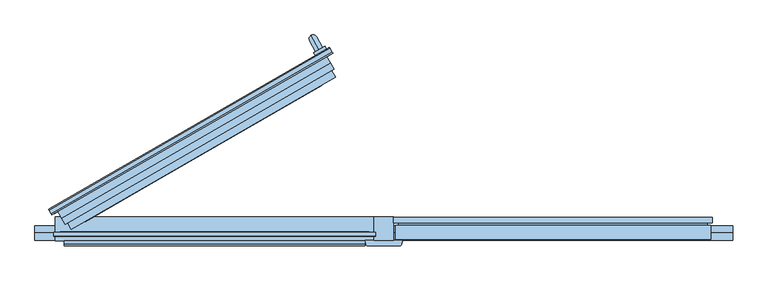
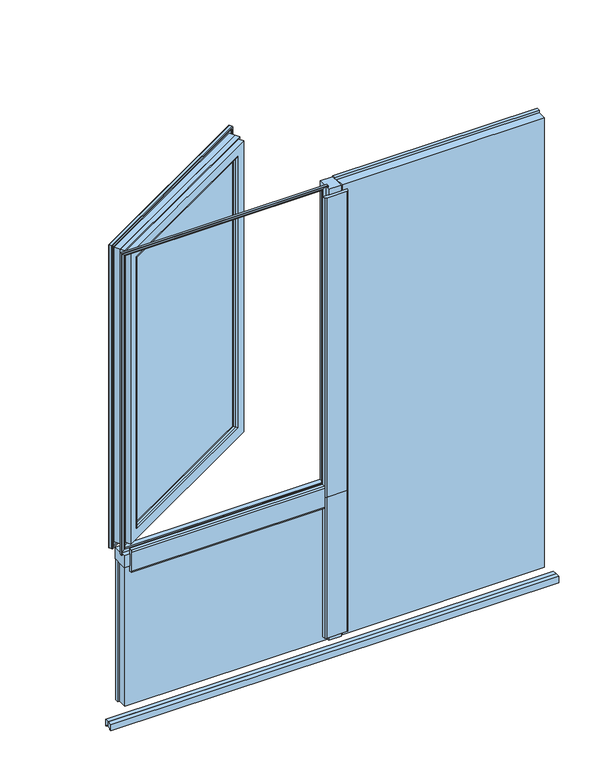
"""IFC4 building model written with IfcOpenShell, lengths in millimetres: window geometry, windowss9000gealanturntiltwindowsublightfixedwindow : windowss9000 2.00 x 2.25."""

from ifc_helpers import new_model, si_unit, point, frame, frame_2d, origin, place, context, project, spatial, polyline, circle_curve, ellipse_curve, trimmed, segment, composite_curve, outline, extrude, faceted_brep, source, transform, mapped, element, save
from ifc_brep_helpers import plane_surface, cylinder_surface, advanced_brep


def window_944cba15(model_context):
    return source(origin(), model_context, "Body", "SolidModel", [
        faceted_brep([(-925.0185609, -81.9435696, 1634.9814391), (-925.0185609, -81.9435696, 3015.0185609), (-928.9615609, -82.1650228, 3018.9615609), (-928.9615609, -82.1650228, 1631.0384391), (-925.0185609, -80.4586856, 1634.9814391), (-925.0185609, -80.4586856, 3015.0185609), (-927.3731482, -79.9993258, 1632.6268518), (-927.3731482, -79.9993258, 3017.3731482), (-946.1, -81.7, 1613.9), (-946.1, -81.7, 3036.1), (-946.1, -90.9718819, 1613.9), (-946.1, -90.9718819, 3036.1), (-946.4143137, -92.4497497, 1613.5856863), (-946.4143137, -92.4497497, 3036.4143137), (-945.4535534, -92.3254352, 1614.5464466), (-945.4535534, -92.3254352, 3035.4535534), (-943.8934304, -89.4676231, 1616.1065696), (-943.8934304, -89.4676231, 3033.8934304), (-943.4676669, -84.0419926, 1616.5323331), (-943.4676669, -84.0419926, 3033.4676669), (-44.9814391, -81.9435696, 3015.0185609), (-41.0384391, -82.1650228, 3018.9615609), (-44.9814391, -80.4586856, 3015.0185609), (-42.6268518, -79.9993258, 3017.3731482), (-23.9, -81.7, 3036.1), (-23.9, -90.9718819, 3036.1), (-23.5856863, -92.4497497, 3036.4143137), (-24.5464466, -92.3254352, 3035.4535534), (-26.1065696, -89.4676231, 3033.8934304), (-26.5323331, -84.0419926, 3033.4676669), (-44.9814391, -81.9435696, 1634.9814391), (-41.0384391, -82.1650228, 1631.0384391), (-44.9814391, -80.4586856, 1634.9814391), (-42.6268518, -79.9993258, 1632.6268518), (-23.9, -81.7, 1613.9), (-23.9, -90.9718819, 1613.9), (-23.5856863, -92.4497497, 1613.5856863), (-24.5464466, -92.3254352, 1614.5464466), (-26.1065696, -89.4676231, 1616.1065696), (-26.5323331, -84.0419926, 1616.5323331)], [[[0, 1, 2, 3]], [[4, 5, 1, 0]], [[6, 7, 5, 4]], [[8, 9, 7, 6]], [[10, 11, 9, 8]], [[12, 13, 11, 10]], [[14, 15, 13, 12]], [[16, 17, 15, 14]], [[18, 19, 17, 16]], [[3, 2, 19, 18]], [[1, 20, 21, 2]], [[5, 22, 20, 1]], [[7, 23, 22, 5]], [[9, 24, 23, 7]], [[11, 25, 24, 9]], [[13, 26, 25, 11]], [[15, 27, 26, 13]], [[17, 28, 27, 15]], [[19, 29, 28, 17]], [[2, 21, 29, 19]], [[20, 30, 31, 21]], [[22, 32, 30, 20]], [[23, 33, 32, 22]], [[24, 34, 33, 23]], [[25, 35, 34, 24]], [[26, 36, 35, 25]], [[27, 37, 36, 26]], [[28, 38, 37, 27]], [[29, 39, 38, 28]], [[21, 31, 39, 29]], [[30, 0, 3, 31]], [[32, 4, 0, 30]], [[33, 6, 4, 32]], [[34, 8, 6, 33]], [[35, 10, 8, 34]], [[36, 12, 10, 35]], [[37, 14, 12, 36]], [[38, 16, 14, 37]], [[39, 18, 16, 38]], [[31, 3, 18, 39]]]),
        extrude(outline(polyline([(913.9987828, 926.0012172), (3016.0012172, 926.0012172), (3016.0012172, 43.9987828), (913.9987828, 43.9987828), (913.9987828, 926.0012172)]), holes=[polyline([(3006.0012172, 916.0012172), (923.9987828, 916.0012172), (923.9987828, 53.9987828), (3006.0012172, 53.9987828), (3006.0012172, 916.0012172)])]), frame((0.0, -62.0, 0.0), z_axis=(0.0, 1.0, 0.0), x_axis=(0.0, 0.0, 1.0)), (0.0, 0.0, 1.0), 2.5),
        advanced_brep(
        [(942.0, -39.0, 3032.0), (942.0, -54.5, 3032.0), (942.0, -54.5, 898.0), (942.0, -39.0, 898.0), (927.8034793, -59.5, 3017.8034793), (927.8034793, -59.5, 912.1965207), (929.1432253, -54.5, 910.8567747), (929.1432253, -54.5, 3019.1432253), (916.0012172, -57.9825503, 3006.0012172), (916.0012172, -57.9825503, 923.9987828), (916.0012172, -59.5, 923.9987828), (916.0012172, -59.5, 3006.0012172), (919.8959832, -43.4470857, 3009.8959832), (919.8959832, -43.4470857, 920.1040168), (925.6915381, -39.0, 3015.6915381), (925.6915381, -39.0, 914.3084619), (28.0, -54.5, 898.0), (28.0, -39.0, 898.0), (42.1965207, -59.5, 912.1965207), (40.8567747, -54.5, 910.8567747), (53.9987828, -57.9825503, 923.9987828), (53.9987828, -59.5, 923.9987828), (50.1040168, -43.4470857, 920.1040168), (44.3084619, -39.0, 914.3084619), (28.0, -54.5, 3032.0), (28.0, -39.0, 3032.0), (42.1965207, -59.5, 3017.8034793), (40.8567747, -54.5, 3019.1432253), (53.9987828, -57.9825503, 3006.0012172), (53.9987828, -59.5, 3006.0012172), (50.1040168, -43.4470857, 3009.8959832), (44.3084619, -39.0, 3015.6915381)],
        [
            (0, 1),
            (1, 2),
            (2, 3),
            (3, 0),
            (4, 5),
            (5, 6),
            (6, 7),
            (7, 4),
            (8, 9),
            (9, 10),
            (10, 11),
            (11, 8),
            (12, 13),
            (13, 9),
            (8, 12),
            (14, 15),
            (15, 13, ellipse_curve(frame((925.6915381, -45.0, 914.3084619), z_axis=(0.7071067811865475, 0.0, 0.7071067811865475), x_axis=(-0.7071067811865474, 0.0, 0.7071067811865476)), 8.4852814, 6.0)),
            (12, 14, ellipse_curve(frame((925.6915381, -45.0, 3015.6915381), z_axis=(0.7071067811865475, 0.0, -0.7071067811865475), x_axis=(0.7071067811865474, 0.0, 0.7071067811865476)), 8.4852814, 6.0)),
            (2, 16),
            (16, 17),
            (17, 3),
            (5, 18),
            (18, 19),
            (19, 6),
            (9, 20),
            (20, 21),
            (21, 10),
            (13, 22),
            (22, 20),
            (15, 23),
            (23, 22, ellipse_curve(frame((44.3084619, -45.0, 914.3084619), z_axis=(0.7071067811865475, 0.0, -0.7071067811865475), x_axis=(0.7071067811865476, 0.0, 0.7071067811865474)), 8.4852814, 6.0)),
            (16, 24),
            (24, 25),
            (25, 17),
            (18, 26),
            (26, 27),
            (27, 19),
            (20, 28),
            (28, 29),
            (29, 21),
            (22, 30),
            (30, 28),
            (23, 31),
            (31, 30, ellipse_curve(frame((44.3084619, -45.0, 3015.6915381), z_axis=(-0.7071067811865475, 0.0, -0.7071067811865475), x_axis=(0.7071067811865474, 0.0, -0.7071067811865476)), 8.4852814, 6.0)),
            (25, 0),
            (14, 31),
            (24, 1),
            (27, 7),
            (26, 4),
            (29, 11),
            (28, 8),
            (30, 12),
        ],
        [
            plane_surface(frame((942.0, -40.0, 3032.0), z_axis=(1.0, 0.0, 0.0), x_axis=(0.0, 0.0, -1.0))),
            plane_surface(frame((929.1432253, -54.5, 3019.1432253), z_axis=(0.9659258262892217, -0.2588190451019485, 0.0), x_axis=(0.0, 0.0, -1.0))),
            plane_surface(frame((916.0012172, -59.5, 3006.0012172), z_axis=(-1.0, 0.0, 0.0), x_axis=(0.0, 0.0, -1.0))),
            plane_surface(frame((916.0012172, -57.9825503, 3006.0012172), z_axis=(-0.96592582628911, 0.2588190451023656, 0.0), x_axis=(0.0, 0.0, -1.0))),
            cylinder_surface(frame((925.6915381, -45.0, 3032.0), z_axis=(0.0, 0.0, 1.0), x_axis=(-0.9659258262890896, 0.25881904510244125, 0.0)), 6.0),
            plane_surface(frame((942.0, -40.0, 898.0), z_axis=(0.0, 0.0, -1.0), x_axis=(-1.0, 0.0, 0.0))),
            plane_surface(frame((929.1432253, -54.5, 910.8567747), z_axis=(0.0, -0.2588190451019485, -0.9659258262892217), x_axis=(-1.0, 0.0, 0.0))),
            plane_surface(frame((916.0012172, -59.5, 923.9987828), z_axis=(0.0, 0.0, 1.0), x_axis=(-1.0, 0.0, 0.0))),
            plane_surface(frame((916.0012172, -57.9825503, 923.9987828), z_axis=(0.0, 0.2588190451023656, 0.96592582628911), x_axis=(-1.0, 0.0, 0.0))),
            cylinder_surface(frame((942.0, -45.0, 914.3084619), z_axis=(1.0, 0.0, 0.0), x_axis=(0.0, 0.25881904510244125, 0.9659258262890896)), 6.0),
            plane_surface(frame((28.0, -40.0, 898.0), z_axis=(-1.0, 0.0, 0.0), x_axis=(0.0, 0.0, 1.0))),
            plane_surface(frame((40.8567747, -54.5, 910.8567747), z_axis=(-0.9659258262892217, -0.2588190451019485, 0.0), x_axis=(0.0, 0.0, 1.0))),
            plane_surface(frame((53.9987828, -59.5, 923.9987828), z_axis=(1.0, 0.0, 0.0), x_axis=(0.0, 0.0, 1.0))),
            plane_surface(frame((53.9987828, -57.9825503, 923.9987828), z_axis=(0.96592582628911, 0.2588190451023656, 0.0), x_axis=(0.0, 0.0, 1.0))),
            cylinder_surface(frame((44.3084619, -45.0, 898.0), z_axis=(0.0, 0.0, -1.0), x_axis=(0.9659258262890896, 0.25881904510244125, 0.0)), 6.0),
            plane_surface(frame((44.3084619, -39.0, 3015.6915381), z_axis=(0.0, 1.0, 0.0), x_axis=(1.0, 0.0, 0.0))),
            plane_surface(frame((28.0, -40.0, 3032.0), z_axis=(0.0, 0.0, 1.0), x_axis=(1.0, 0.0, 0.0))),
            plane_surface(frame((28.0, -54.5, 3032.0), z_axis=(0.0, -1.0, 0.0), x_axis=(1.0, 0.0, 0.0))),
            plane_surface(frame((40.8567747, -54.5, 3019.1432253), z_axis=(0.0, -0.2588190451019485, 0.9659258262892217), x_axis=(1.0, 0.0, 0.0))),
            plane_surface(frame((42.1965207, -59.5, 3017.8034793), z_axis=(0.0, -1.0, 0.0), x_axis=(1.0, 0.0, 0.0))),
            plane_surface(frame((53.9987828, -59.5, 3006.0012172), z_axis=(0.0, 0.0, -1.0), x_axis=(1.0, 0.0, 0.0))),
            plane_surface(frame((53.9987828, -57.9825503, 3006.0012172), z_axis=(0.0, 0.2588190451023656, -0.96592582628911), x_axis=(1.0, 0.0, 0.0))),
            cylinder_surface(frame((28.0, -45.0, 3015.6915381), z_axis=(-1.0, 0.0, 0.0), x_axis=(0.0, 0.25881904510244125, -0.9659258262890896)), 6.0),
        ],
        [
            (0, [[1, 2, 3, 4]]),
            (1, [[5, 6, 7, 8]]),
            (2, [[9, 10, 11, 12]]),
            (3, [[13, 14, -9, 15]]),
            (4, [[16, 17, -13, 18]]),
            (5, [[19, 20, 21, -3]]),
            (6, [[22, 23, 24, -6]]),
            (7, [[25, 26, 27, -10]]),
            (8, [[28, 29, -25, -14]]),
            (9, [[30, 31, -28, -17]]),
            (10, [[32, 33, 34, -20]]),
            (11, [[35, 36, 37, -23]]),
            (12, [[38, 39, 40, -26]]),
            (13, [[41, 42, -38, -29]]),
            (14, [[43, 44, -41, -31]]),
            (15, [[-4, -21, -34, 45], [-16, 46, -43, -30]]),
            (16, [[47, -1, -45, -33]]),
            (17, [[-2, -47, -32, -19], [-7, -24, -37, 48]]),
            (18, [[49, -8, -48, -36]]),
            (19, [[-5, -49, -35, -22], [-11, -27, -40, 50]]),
            (20, [[51, -12, -50, -39]]),
            (21, [[52, -15, -51, -42]]),
            (22, [[-46, -18, -52, -44]]),
        ],
    ),
        extrude(outline(polyline([(913.9987828, -43.9987828), (1546.0012172, -43.9987828), (1546.0012172, -926.0012172), (913.9987828, -926.0012172), (913.9987828, -43.9987828)]), holes=[polyline([(1536.0012172, -53.9987828), (923.9987828, -53.9987828), (923.9987828, -916.0012172), (1536.0012172, -916.0012172), (1536.0012172, -53.9987828)])]), frame((0.0, -62.0, 0.0), z_axis=(0.0, 1.0, 0.0), x_axis=(0.0, 0.0, 1.0)), (0.0, 0.0, 1.0), 2.5),
        advanced_brep(
        [(-28.0, -39.0, 1562.0), (-28.0, -54.5, 1562.0), (-28.0, -54.5, 898.0), (-28.0, -39.0, 898.0), (-42.1965207, -59.5, 1547.8034793), (-42.1965207, -59.5, 912.1965207), (-40.8567747, -54.5, 910.8567747), (-40.8567747, -54.5, 1549.1432253), (-53.9987828, -57.9825503, 1536.0012172), (-53.9987828, -57.9825503, 923.9987828), (-53.9987828, -59.5, 923.9987828), (-53.9987828, -59.5, 1536.0012172), (-50.1040168, -43.4470857, 1539.8959832), (-50.1040168, -43.4470857, 920.1040168), (-44.3084619, -39.0, 1545.6915381), (-44.3084619, -39.0, 914.3084619), (-942.0, -54.5, 898.0), (-942.0, -39.0, 898.0), (-927.8034793, -59.5, 912.1965207), (-929.1432253, -54.5, 910.8567747), (-916.0012172, -57.9825503, 923.9987828), (-916.0012172, -59.5, 923.9987828), (-919.8959832, -43.4470857, 920.1040168), (-925.6915381, -39.0, 914.3084619), (-942.0, -54.5, 1562.0), (-942.0, -39.0, 1562.0), (-927.8034793, -59.5, 1547.8034793), (-929.1432253, -54.5, 1549.1432253), (-916.0012172, -57.9825503, 1536.0012172), (-916.0012172, -59.5, 1536.0012172), (-919.8959832, -43.4470857, 1539.8959832), (-925.6915381, -39.0, 1545.6915381)],
        [
            (0, 1),
            (1, 2),
            (2, 3),
            (3, 0),
            (4, 5),
            (5, 6),
            (6, 7),
            (7, 4),
            (8, 9),
            (9, 10),
            (10, 11),
            (11, 8),
            (12, 13),
            (13, 9),
            (8, 12),
            (14, 15),
            (15, 13, ellipse_curve(frame((-44.3084619, -45.0, 914.3084619), z_axis=(0.7071067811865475, 0.0, 0.7071067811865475), x_axis=(-0.7071067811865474, 0.0, 0.7071067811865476)), 8.4852814, 6.0)),
            (12, 14, ellipse_curve(frame((-44.3084619, -45.0, 1545.6915381), z_axis=(0.7071067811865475, 0.0, -0.7071067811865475), x_axis=(0.7071067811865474, 0.0, 0.7071067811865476)), 8.4852814, 6.0)),
            (2, 16),
            (16, 17),
            (17, 3),
            (5, 18),
            (18, 19),
            (19, 6),
            (9, 20),
            (20, 21),
            (21, 10),
            (13, 22),
            (22, 20),
            (15, 23),
            (23, 22, ellipse_curve(frame((-925.6915381, -45.0, 914.3084619), z_axis=(0.7071067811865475, 0.0, -0.7071067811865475), x_axis=(0.7071067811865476, 0.0, 0.7071067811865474)), 8.4852814, 6.0)),
            (16, 24),
            (24, 25),
            (25, 17),
            (18, 26),
            (26, 27),
            (27, 19),
            (20, 28),
            (28, 29),
            (29, 21),
            (22, 30),
            (30, 28),
            (23, 31),
            (31, 30, ellipse_curve(frame((-925.6915381, -45.0, 1545.6915381), z_axis=(-0.7071067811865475, 0.0, -0.7071067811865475), x_axis=(0.7071067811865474, 0.0, -0.7071067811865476)), 8.4852814, 6.0)),
            (25, 0),
            (14, 31),
            (24, 1),
            (27, 7),
            (26, 4),
            (29, 11),
            (28, 8),
            (30, 12),
        ],
        [
            plane_surface(frame((-28.0, -40.0, 1562.0), z_axis=(1.0, 0.0, 0.0), x_axis=(0.0, 0.0, -1.0))),
            plane_surface(frame((-40.8567747, -54.5, 1549.1432253), z_axis=(0.9659258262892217, -0.2588190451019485, 0.0), x_axis=(0.0, 0.0, -1.0))),
            plane_surface(frame((-53.9987828, -59.5, 1536.0012172), z_axis=(-1.0, 0.0, 0.0), x_axis=(0.0, 0.0, -1.0))),
            plane_surface(frame((-53.9987828, -57.9825503, 1536.0012172), z_axis=(-0.96592582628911, 0.2588190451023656, 0.0), x_axis=(0.0, 0.0, -1.0))),
            cylinder_surface(frame((-44.3084619, -45.0, 1562.0), z_axis=(0.0, 0.0, 1.0), x_axis=(-0.9659258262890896, 0.25881904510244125, 0.0)), 6.0),
            plane_surface(frame((-28.0, -40.0, 898.0), z_axis=(0.0, 0.0, -1.0), x_axis=(-1.0, 0.0, 0.0))),
            plane_surface(frame((-40.8567747, -54.5, 910.8567747), z_axis=(0.0, -0.2588190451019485, -0.9659258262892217), x_axis=(-1.0, 0.0, 0.0))),
            plane_surface(frame((-53.9987828, -59.5, 923.9987828), z_axis=(0.0, 0.0, 1.0), x_axis=(-1.0, 0.0, 0.0))),
            plane_surface(frame((-53.9987828, -57.9825503, 923.9987828), z_axis=(0.0, 0.2588190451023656, 0.96592582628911), x_axis=(-1.0, 0.0, 0.0))),
            cylinder_surface(frame((-28.0, -45.0, 914.3084619), z_axis=(1.0, 0.0, 0.0), x_axis=(0.0, 0.25881904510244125, 0.9659258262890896)), 6.0),
            plane_surface(frame((-942.0, -40.0, 898.0), z_axis=(-1.0, 0.0, 0.0), x_axis=(0.0, 0.0, 1.0))),
            plane_surface(frame((-929.1432253, -54.5, 910.8567747), z_axis=(-0.9659258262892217, -0.2588190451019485, 0.0), x_axis=(0.0, 0.0, 1.0))),
            plane_surface(frame((-916.0012172, -59.5, 923.9987828), z_axis=(1.0, 0.0, 0.0), x_axis=(0.0, 0.0, 1.0))),
            plane_surface(frame((-916.0012172, -57.9825503, 923.9987828), z_axis=(0.96592582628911, 0.2588190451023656, 0.0), x_axis=(0.0, 0.0, 1.0))),
            cylinder_surface(frame((-925.6915381, -45.0, 898.0), z_axis=(0.0, 0.0, -1.0), x_axis=(0.9659258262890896, 0.25881904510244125, 0.0)), 6.0),
            plane_surface(frame((-925.6915381, -39.0, 1545.6915381), z_axis=(0.0, 1.0, 0.0), x_axis=(1.0, 0.0, 0.0))),
            plane_surface(frame((-942.0, -40.0, 1562.0), z_axis=(0.0, 0.0, 1.0), x_axis=(1.0, 0.0, 0.0))),
            plane_surface(frame((-942.0, -54.5, 1562.0), z_axis=(0.0, -1.0, 0.0), x_axis=(1.0, 0.0, 0.0))),
            plane_surface(frame((-929.1432253, -54.5, 1549.1432253), z_axis=(0.0, -0.2588190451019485, 0.9659258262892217), x_axis=(1.0, 0.0, 0.0))),
            plane_surface(frame((-927.8034793, -59.5, 1547.8034793), z_axis=(0.0, -1.0, 0.0), x_axis=(1.0, 0.0, 0.0))),
            plane_surface(frame((-916.0012172, -59.5, 1536.0012172), z_axis=(0.0, 0.0, -1.0), x_axis=(1.0, 0.0, 0.0))),
            plane_surface(frame((-916.0012172, -57.9825503, 1536.0012172), z_axis=(0.0, 0.2588190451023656, -0.96592582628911), x_axis=(1.0, 0.0, 0.0))),
            cylinder_surface(frame((-942.0, -45.0, 1545.6915381), z_axis=(-1.0, 0.0, 0.0), x_axis=(0.0, 0.25881904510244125, -0.9659258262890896)), 6.0),
        ],
        [
            (0, [[1, 2, 3, 4]]),
            (1, [[5, 6, 7, 8]]),
            (2, [[9, 10, 11, 12]]),
            (3, [[13, 14, -9, 15]]),
            (4, [[16, 17, -13, 18]]),
            (5, [[19, 20, 21, -3]]),
            (6, [[22, 23, 24, -6]]),
            (7, [[25, 26, 27, -10]]),
            (8, [[28, 29, -25, -14]]),
            (9, [[30, 31, -28, -17]]),
            (10, [[32, 33, 34, -20]]),
            (11, [[35, 36, 37, -23]]),
            (12, [[38, 39, 40, -26]]),
            (13, [[41, 42, -38, -29]]),
            (14, [[43, 44, -41, -31]]),
            (15, [[-4, -21, -34, 45], [-16, 46, -43, -30]]),
            (16, [[47, -1, -45, -33]]),
            (17, [[-2, -47, -32, -19], [-7, -24, -37, 48]]),
            (18, [[49, -8, -48, -36]]),
            (19, [[-5, -49, -35, -22], [-11, -27, -40, 50]]),
            (20, [[51, -12, -50, -39]]),
            (21, [[52, -15, -51, -42]]),
            (22, [[-46, -18, -52, -44]]),
        ],
    ),
        extrude(outline(polyline([(33.0, -102.0), (33.0, -62.0), (937.0, -62.0), (937.0, -102.0), (33.0, -102.0)])), frame((0.0, 0.0, 903.0), z_axis=(0.0, 0.0, 1.0), x_axis=(1.0, 0.0, 0.0)), (0.0, 0.0, 1.0), 2124.0),
        extrude(outline(composite_curve([segment(polyline([(45.6552097, -120.0), (-45.6552097, -120.0)]), True, "CONTINUOUS"), segment(trimmed(circle_curve(frame_2d((-45.6552097, -114.0)), 6.0), [point((-45.6552097, -120.0))], [point((-51.4507647, -115.5529143))], False, "CARTESIAN"), True, "CONTINUOUS"), segment(polyline([(-51.4507647, -115.5529143), (-54.3100167, -105.0), (54.2784096, -105.0), (51.4507647, -115.5529143)]), True, "CONTINUOUS"), segment(trimmed(circle_curve(frame_2d((45.6552097, -114.0)), 6.0), [point((51.4507647, -115.5529143))], [point((45.6552097, -120.0))], False, "CARTESIAN"), True, "CONTINUOUS")], self_intersect=False)), frame((0.0, 0.0, 1590.0), z_axis=(0.0, 0.0, 1.0), x_axis=(1.0, 0.0, 0.0)), (0.0, 0.0, 1.0), 1411.9),
        extrude(outline(polyline([(-28.0, -37.5), (28.0, -37.5), (28.0, -105.0), (-28.0, -105.0), (-28.0, -37.5)])), frame((0.0, 0.0, 1590.0), z_axis=(0.0, 0.0, 1.0), x_axis=(1.0, 0.0, 0.0)), (0.0, 0.0, 1.0), 1437.9),
        extrude(outline(composite_curve([segment(polyline([(45.6552097, -120.0), (-45.6552097, -120.0)]), True, "CONTINUOUS"), segment(trimmed(circle_curve(frame_2d((-45.6552097, -114.0)), 6.0), [point((-45.6552097, -120.0))], [point((-51.4507647, -115.5529143))], False, "CARTESIAN"), True, "CONTINUOUS"), segment(polyline([(-51.4507647, -115.5529143), (-54.3100167, -105.0), (54.2784096, -105.0), (51.4507647, -115.5529143)]), True, "CONTINUOUS"), segment(trimmed(circle_curve(frame_2d((45.6552097, -114.0)), 6.0), [point((51.4507647, -115.5529143))], [point((45.6552097, -120.0))], False, "CARTESIAN"), True, "CONTINUOUS")], self_intersect=False)), frame((0.0, 0.0, 924.0), z_axis=(0.0, 0.0, 1.0), x_axis=(1.0, 0.0, 0.0)), (0.0, 0.0, 1.0), 666.0),
        extrude(outline(polyline([(-28.0, -37.5), (28.0, -37.5), (28.0, -105.0), (-28.0, -105.0), (-28.0, -37.5)])), frame((0.0, 0.0, 898.0), z_axis=(0.0, 0.0, 1.0), x_axis=(1.0, 0.0, 0.0)), (0.0, 0.0, 1.0), 692.0),
        extrude(outline(composite_curve([segment(polyline([(-115.5529143, 1641.4507647), (-105.0, 1644.2784096), (-105.0, 1535.6899833), (-115.5529143, 1538.5492353)]), True, "CONTINUOUS"), segment(trimmed(circle_curve(frame_2d((-114.0, 1544.3447903)), 6.0), [point((-115.5529143, 1538.5492353))], [point((-120.0, 1544.3447903))], False, "CARTESIAN"), True, "CONTINUOUS"), segment(polyline([(-120.0, 1544.3447903), (-120.0, 1635.6552097)]), True, "CONTINUOUS"), segment(trimmed(circle_curve(frame_2d((-114.0, 1635.6552097)), 6.0), [point((-120.0, 1635.6552097))], [point((-115.5529143, 1641.4507647))], False, "CARTESIAN"), True, "CONTINUOUS")], self_intersect=False)), frame((-916.0, 0.0, 0.0), z_axis=(1.0, 0.0, 0.0), x_axis=(0.0, 1.0, 0.0)), (0.0, 0.0, 1.0), 861.6899833),
        faceted_brep([(-942.0, -37.5, 1562.0), (-942.0, -105.0, 1562.0), (-942.0, -105.0, 1618.0), (-942.0, -37.5, 1618.0), (-28.0, -37.5, 1562.0), (-28.0, -105.0, 1562.0), (-54.3100167, -105.0, 1562.0), (-28.0, -105.0, 1618.0), (-54.3100167, -105.0, 1618.0), (-28.0, -37.5, 1618.0)], [[[0, 1, 2, 3]], [[0, 4, 5, 6, 1]], [[1, 6, 5, 7, 8, 2]], [[2, 8, 7, 9, 3]], [[3, 9, 4, 0]], [[4, 9, 7, 5]]]),
        advanced_brep(
        [(-185.001819, 443.431724, 2295.5), (-185.001819, 443.431724, 2272.5), (-196.751819, 463.783321, 2272.5), (-208.251819, 483.7019053, 2295.5), (-208.251819, 483.7019053, 2167.0), (-196.751819, 463.783321, 2167.0)],
        [
            (0, 1, circle_curve(frame((-185.001819, 443.431724, 2284.0), z_axis=(0.49999999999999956, -0.8660254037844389, 0.0), x_axis=(0.0, 0.0, -1.0)), 11.5)),
            (1, 0, circle_curve(frame((-185.001819, 443.431724, 2284.0), z_axis=(0.49999999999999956, -0.8660254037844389, 0.0), x_axis=(0.0, 0.0, -1.0)), 11.5)),
            (1, 2),
            (2, 3, ellipse_curve(frame((-202.501819, 473.7426131, 2284.0), z_axis=(0.3535533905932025, -0.6123724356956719, 0.7071067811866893), x_axis=(0.3535533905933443, -0.6123724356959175, -0.7071067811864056)), 16.263456, 11.5)),
            (3, 0),
            (3, 2, ellipse_curve(frame((-202.501819, 473.7426131, 2284.0), z_axis=(0.3535533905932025, -0.6123724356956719, 0.7071067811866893), x_axis=(0.3535533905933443, -0.6123724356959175, -0.7071067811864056)), 16.263456, 11.5)),
            (4, 5, circle_curve(frame((-202.501819, 473.7426131, 2167.0), z_axis=(0.0, 0.0, -1.0), x_axis=(0.49999999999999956, -0.8660254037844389, 0.0)), 11.5)),
            (5, 4, circle_curve(frame((-202.501819, 473.7426131, 2167.0), z_axis=(0.0, 0.0, -1.0), x_axis=(0.49999999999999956, -0.8660254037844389, 0.0)), 11.5)),
            (2, 5),
            (4, 3),
        ],
        [
            plane_surface(frame((-185.001819, 443.431724, 2284.0), z_axis=(0.49999999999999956, -0.8660254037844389, 0.0), x_axis=(0.8660254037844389, 0.49999999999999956, 0.0))),
            cylinder_surface(frame((-185.001819, 443.431724, 2284.0), z_axis=(0.49999999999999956, -0.8660254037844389, 0.0), x_axis=(0.0, 0.0, -1.0)), 11.5),
            plane_surface(frame((-202.501819, 473.7426131, 2167.0), z_axis=(0.0, 0.0, -1.0), x_axis=(0.8660254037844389, 0.49999999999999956, 0.0))),
            cylinder_surface(frame((-202.501819, 473.7426131, 2284.0), z_axis=(0.0, 0.0, 1.0), x_axis=(0.49999999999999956, -0.8660254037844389, 0.0)), 11.5),
        ],
        [
            (0, [[1, 2]]),
            (1, [[3, 4, 5, -2]]),
            (1, [[-5, 6, -3, -1]]),
            (2, [[7, 8]]),
            (3, [[9, -7, 10, -4]]),
            (3, [[-10, -8, -9, -6]]),
        ],
    ),
        extrude(outline(polyline([(-163.9803491, 444.02147), (-196.023289, 425.52147), (-201.023289, 434.181724), (-168.9803491, 452.681724), (-163.9803491, 444.02147)])), frame((0.0, 0.0, 2225.0), z_axis=(0.0, 0.0, 1.0), x_axis=(1.0, 0.0, 0.0)), (0.0, 0.0, 1.0), 118.0),
        extrude(outline(polyline([(-875.6461709, -41.3371686), (-895.6461709, -6.6961524), (-195.8976447, 397.3038476), (-175.8976447, 362.6628314), (-875.6461709, -41.3371686)])), frame((0.0, 0.0, 1671.0000002), z_axis=(0.0, 0.0, 1.0), x_axis=(1.0, 0.0, 0.0)), (0.0, 0.0, 1.0), 1308.0),
        extrude(outline(polyline([(1273.2, 7.2000001), (1273.2, -773.2), (-7.2, -773.2), (-7.2, 7.2000001), (1273.2, 7.2000001)]), holes=[polyline([(1266.0, -766.0), (1266.0, 0.0), (0.0, 0.0), (0.0, -766.0), (1266.0, -766.0)])]), frame((-855.9596374, -33.4352448, 2958.0000002), z_axis=(-0.4999999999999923, 0.8660254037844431, 0.0), x_axis=(0.0, 0.0, -1.0)), (0.0, 0.0, 1.0), 3.0),
        extrude(outline(polyline([(777.5024344, 11.5), (777.5024344, -1277.5024344), (-11.5, -1277.5024344), (-11.5, 11.5), (777.5024344, 11.5)]), holes=[polyline([(766.0024344, -1266.0024344), (766.0024344, 0.0), (0.0, 0.0), (0.0, -1266.0024344), (766.0024344, -1266.0024344)])]), frame((-877.4606916, 3.803239, 1691.998783), z_axis=(-0.49999999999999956, 0.8660254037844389, 0.0), x_axis=(0.8660254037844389, 0.49999999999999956, 0.0)), (0.0, 0.0, 1.0), 2.5),
        extrude(outline(polyline([(922.0, 8.0), (922.0, -1422.0), (-8.0000001, -1422.0), (-8.0000001, 8.0), (922.0, 8.0)]), holes=[polyline([(913.9999999, -1414.0), (913.9999999, 0.0), (0.0, 0.0), (0.0, -1414.0), (913.9999999, -1414.0)])]), frame((-152.9982983, 429.0, 3032.0000002), z_axis=(-0.49999999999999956, 0.8660254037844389, 0.0), x_axis=(-0.8660254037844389, -0.49999999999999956, 0.0)), (0.0, 0.0, 1.0), 3.5),
        advanced_brep(
        [(-855.6872019, -50.5984621, 2966.3456727), (-855.6872019, -50.5984621, 1683.6543277), (-852.8916469, -43.8493954, 1689.4498827), (-852.8916469, -43.8493954, 2960.5501178), (-905.9750093, -54.8060797, 3012.0000002), (-905.9750093, -54.8060797, 1638.0000002), (-895.2250093, -73.4256258, 1638.0000002), (-895.2250093, -73.4256258, 3012.0000002), (-922.9032125, -41.4855716, 3020.0000002), (-922.9032125, -41.4855716, 1630.0000002), (-912.9032125, -58.8060797, 1630.0000002), (-912.9032125, -58.8060797, 3020.0000002), (-889.0270624, -36.3607847, 2988.1000002), (-889.0270624, -36.3607847, 1661.9000002), (-895.2770021, -25.5355716, 1661.9000002), (-895.2770021, -25.5355716, 2988.1000002), (-884.6041356, -49.9731535, 2991.0758177), (-884.6041356, -49.9731535, 1658.9241827), (-855.4417645, -34.3322271, 2958.0000002), (-855.4417645, -34.3322271, 1692.0000002), (-855.9596374, -33.4352448, 1692.0000002), (-855.9596374, -33.4352448, 2958.0000002), (-177.8566137, 340.7472104, 1683.6543277), (-185.0992544, 341.7007221, 1689.4498827), (-149.0688063, 382.1939203, 1638.0000002), (-138.3188063, 363.5743742, 1638.0000002), (-152.1406031, 403.5144284, 1630.0000002), (-142.1406031, 386.1939203, 1630.0000002), (-173.5168738, 376.7392153, 1661.9000002), (-179.7668135, 387.5644284, 1661.9000002), (-163.9396799, 366.102664, 1658.9241827), (-192.0663052, 348.6677729, 1692.0000002), (-192.5841781, 349.5647552, 1692.0000002), (-177.8566137, 340.7472104, 2966.3456727), (-185.0992544, 341.7007221, 2960.5501178), (-149.0688063, 382.1939203, 3012.0000002), (-138.3188063, 363.5743742, 3012.0000002), (-152.1406031, 403.5144284, 3020.0000002), (-142.1406031, 386.1939203, 3020.0000002), (-173.5168738, 376.7392153, 2988.1000002), (-179.7668135, 387.5644284, 2988.1000002), (-163.9396799, 366.102664, 2991.0758177), (-192.0663052, 348.6677729, 2958.0000002), (-192.5841781, 349.5647552, 2958.0000002)],
        [
            (0, 1),
            (1, 2, ellipse_curve(frame((-858.6872019, -45.4023097, 1683.6543277), z_axis=(-0.6123724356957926, -0.3535533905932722, 0.70710678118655), x_axis=(0.6123724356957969, 0.3535533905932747, 0.7071067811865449)), 8.4852814, 6.0)),
            (2, 3),
            (3, 0, ellipse_curve(frame((-858.6872019, -45.4023097, 2966.3456727), z_axis=(-0.6123724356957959, -0.3535533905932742, -0.7071067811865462), x_axis=(-0.6123724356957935, -0.35355339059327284, 0.7071067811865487)), 8.4852814, 6.0)),
            (4, 5),
            (5, 6),
            (6, 7),
            (7, 4),
            (8, 9),
            (9, 10),
            (10, 11),
            (11, 8),
            (12, 13),
            (13, 14),
            (14, 15),
            (15, 12),
            (16, 17),
            (17, 13),
            (12, 16),
            (18, 19),
            (19, 20),
            (20, 21),
            (21, 18),
            (2, 19),
            (18, 3),
            (1, 22),
            (22, 23, ellipse_curve(frame((-180.8566137, 345.9433628, 1683.6543277), z_axis=(-0.6123724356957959, -0.3535533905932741, -0.7071067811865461), x_axis=(-0.6123724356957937, -0.35355339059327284, 0.7071067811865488)), 8.4852814, 6.0)),
            (23, 2),
            (5, 24),
            (24, 25),
            (25, 6),
            (9, 26),
            (26, 27),
            (27, 10),
            (13, 28),
            (28, 29),
            (29, 14),
            (17, 30),
            (30, 28),
            (19, 31),
            (31, 32),
            (32, 20),
            (23, 31),
            (22, 33),
            (33, 34, ellipse_curve(frame((-180.8566137, 345.9433628, 2966.3456727), z_axis=(0.6123724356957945, 0.3535533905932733, -0.7071067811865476), x_axis=(-0.6123724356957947, -0.3535533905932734, -0.7071067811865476)), 8.4852814, 6.0)),
            (34, 23),
            (24, 35),
            (35, 36),
            (36, 25),
            (26, 37),
            (37, 38),
            (38, 27),
            (28, 39),
            (39, 40),
            (40, 29),
            (30, 41),
            (41, 39),
            (31, 42),
            (42, 43),
            (43, 32),
            (34, 42),
            (33, 0),
            (3, 34),
            (36, 7),
            (35, 4),
            (38, 11),
            (37, 8),
            (40, 15),
            (39, 12),
            (41, 16),
            (43, 21),
            (42, 18),
        ],
        [
            cylinder_surface(frame((-858.6872019, -45.4023097, 3040.0000002), z_axis=(0.0, 0.0, 1.0), x_axis=(0.5000000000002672, -0.8660254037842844, 0.0)), 6.0),
            plane_surface(frame((-895.2250093, -73.4256258, 3012.0000002), z_axis=(-0.8660254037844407, -0.4999999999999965, 0.0), x_axis=(0.0, 0.0, -1.0))),
            plane_surface(frame((-912.9032125, -58.8060797, 3020.0000002), z_axis=(-0.8660254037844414, -0.4999999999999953, 0.0), x_axis=(0.0, 0.0, -1.0))),
            plane_surface(frame((-895.2770021, -25.5355716, 2988.1000002), z_axis=(0.8660254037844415, 0.49999999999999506, 0.0), x_axis=(0.0, 0.0, -1.0))),
            plane_surface(frame((-889.0270624, -36.3607847, 2988.1000002), z_axis=(0.9510565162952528, 0.30901699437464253, 0.0), x_axis=(0.0, 0.0, -1.0))),
            plane_surface(frame((-855.9596374, -33.4352448, 2958.0000002), z_axis=(0.8660254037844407, 0.4999999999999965, 0.0), x_axis=(0.0, 0.0, -1.0))),
            plane_surface(frame((-855.4417645, -34.3322271, 2958.0000002), z_axis=(0.9659258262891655, 0.25881904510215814, 0.0), x_axis=(0.0, 0.0, -1.0))),
            cylinder_surface(frame((-922.4737206, -82.2294734, 1683.6543277), z_axis=(-0.8660254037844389, -0.49999999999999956, 0.0), x_axis=(0.49999999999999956, -0.8660254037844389, 0.0)), 6.0),
            plane_surface(frame((-895.2250093, -73.4256258, 1638.0000002), z_axis=(0.0, 0.0, -1.0), x_axis=(0.8660254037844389, 0.49999999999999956, 0.0))),
            plane_surface(frame((-912.9032125, -58.8060797, 1630.0000002), z_axis=(0.0, 0.0, -1.0), x_axis=(0.8660254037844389, 0.49999999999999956, 0.0))),
            plane_surface(frame((-895.2770021, -25.5355716, 1661.9000002), z_axis=(0.0, 0.0, 1.0), x_axis=(0.8660254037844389, 0.49999999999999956, 0.0))),
            plane_surface(frame((-889.0270624, -36.3607847, 1661.9000002), z_axis=(0.10395584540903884, -0.18005680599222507, 0.9781476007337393), x_axis=(0.8660254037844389, 0.49999999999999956, 0.0))),
            plane_surface(frame((-855.9596374, -33.4352448, 1692.0000002), z_axis=(0.0, 0.0, 1.0), x_axis=(0.8660254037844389, 0.49999999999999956, 0.0))),
            plane_surface(frame((-855.4417645, -34.3322271, 1692.0000002), z_axis=(0.12940952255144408, -0.2241438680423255, 0.9659258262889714), x_axis=(0.8660254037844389, 0.49999999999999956, 0.0))),
            cylinder_surface(frame((-180.8566137, 345.9433628, 1610.0000002), z_axis=(0.0, 0.0, -1.0), x_axis=(0.4999999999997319, -0.8660254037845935, 0.0)), 6.0),
            plane_surface(frame((-138.3188063, 363.5743742, 1638.0000002), z_axis=(0.8660254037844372, 0.5000000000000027, 0.0), x_axis=(0.0, 0.0, 1.0))),
            plane_surface(frame((-142.1406031, 386.1939203, 1630.0000002), z_axis=(0.8660254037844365, 0.5000000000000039, 0.0), x_axis=(0.0, 0.0, 1.0))),
            plane_surface(frame((-179.7668135, 387.5644284, 1661.9000002), z_axis=(-0.8660254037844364, -0.500000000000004, 0.0), x_axis=(0.0, 0.0, 1.0))),
            plane_surface(frame((-173.5168738, 376.7392153, 1661.9000002), z_axis=(-0.7431448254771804, -0.6691306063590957, 0.0), x_axis=(0.0, 0.0, 1.0))),
            plane_surface(frame((-192.5841781, 349.5647552, 1692.0000002), z_axis=(-0.8660254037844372, -0.5000000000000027, 0.0), x_axis=(0.0, 0.0, 1.0))),
            plane_surface(frame((-192.0663052, 348.6677729, 1692.0000002), z_axis=(-0.7071067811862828, -0.7071067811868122, 0.0), x_axis=(0.0, 0.0, 1.0))),
            cylinder_surface(frame((-117.070095, 382.7705266, 2966.3456727), z_axis=(0.8660254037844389, 0.49999999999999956, 0.0), x_axis=(0.49999999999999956, -0.8660254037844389, 0.0)), 6.0),
            plane_surface(frame((-177.8566137, 340.7472104, 2966.3456727), z_axis=(0.49999999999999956, -0.8660254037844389, 0.0), x_axis=(-0.8660254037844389, -0.49999999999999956, 0.0))),
            plane_surface(frame((-138.3188063, 363.5743742, 3012.0000002), z_axis=(0.0, 0.0, 1.0), x_axis=(-0.8660254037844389, -0.49999999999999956, 0.0))),
            plane_surface(frame((-149.0688063, 382.1939203, 3012.0000002), z_axis=(0.49999999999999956, -0.8660254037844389, 0.0), x_axis=(-0.8660254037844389, -0.49999999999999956, 0.0))),
            plane_surface(frame((-142.1406031, 386.1939203, 3020.0000002), z_axis=(0.0, 0.0, 1.0), x_axis=(-0.8660254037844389, -0.49999999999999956, 0.0))),
            plane_surface(frame((-152.1406031, 403.5144284, 3020.0000002), z_axis=(-0.49999999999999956, 0.8660254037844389, 0.0), x_axis=(-0.8660254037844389, -0.49999999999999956, 0.0))),
            plane_surface(frame((-179.7668135, 387.5644284, 2988.1000002), z_axis=(0.0, 0.0, -1.0), x_axis=(-0.8660254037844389, -0.49999999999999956, 0.0))),
            plane_surface(frame((-173.5168738, 376.7392153, 2988.1000002), z_axis=(0.10395584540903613, -0.18005680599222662, -0.9781476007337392), x_axis=(-0.8660254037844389, -0.49999999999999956, 0.0))),
            plane_surface(frame((-191.7181527, 350.0647552, 2959.0000002), z_axis=(-0.49999999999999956, 0.8660254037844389, 0.0), x_axis=(-0.8660254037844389, -0.49999999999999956, 0.0))),
            plane_surface(frame((-192.5841781, 349.5647552, 2958.0000002), z_axis=(0.0, 0.0, -1.0), x_axis=(-0.8660254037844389, -0.49999999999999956, 0.0))),
            plane_surface(frame((-192.0663052, 348.6677729, 2958.0000002), z_axis=(0.12940952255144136, -0.2241438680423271, -0.9659258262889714), x_axis=(-0.8660254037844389, -0.49999999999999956, 0.0))),
        ],
        [
            (0, [[1, 2, 3, 4]]),
            (1, [[5, 6, 7, 8]]),
            (2, [[9, 10, 11, 12]]),
            (3, [[13, 14, 15, 16]]),
            (4, [[17, 18, -13, 19]]),
            (5, [[20, 21, 22, 23]]),
            (6, [[-3, 24, -20, 25]]),
            (7, [[26, 27, 28, -2]]),
            (8, [[29, 30, 31, -6]]),
            (9, [[32, 33, 34, -10]]),
            (10, [[35, 36, 37, -14]]),
            (11, [[38, 39, -35, -18]]),
            (12, [[40, 41, 42, -21]]),
            (13, [[-28, 43, -40, -24]]),
            (14, [[44, 45, 46, -27]]),
            (15, [[47, 48, 49, -30]]),
            (16, [[50, 51, 52, -33]]),
            (17, [[53, 54, 55, -36]]),
            (18, [[56, 57, -53, -39]]),
            (19, [[58, 59, 60, -41]]),
            (20, [[-46, 61, -58, -43]]),
            (21, [[62, -4, 63, -45]]),
            (22, [[-7, -31, -49, 64], [-1, -62, -44, -26]]),
            (23, [[65, -8, -64, -48]]),
            (24, [[-11, -34, -52, 66], [-5, -65, -47, -29]]),
            (25, [[67, -12, -66, -51]]),
            (26, [[-9, -67, -50, -32], [-15, -37, -55, 68]]),
            (27, [[69, -16, -68, -54]]),
            (28, [[70, -19, -69, -57]]),
            (29, [[-17, -70, -56, -38], [-22, -42, -60, 71]]),
            (30, [[72, -23, -71, -59]]),
            (31, [[-63, -25, -72, -61]]),
        ],
    ),
        advanced_brep(
        [(-906.6012979, 2.2786842, 2984.0000002), (-906.6012979, 2.2786842, 1666.0000002), (-912.2262979, 12.02147, 1666.0000002), (-912.2262979, 12.02147, 2984.0000002), (-895.2770021, -25.5355716, 2988.1000002), (-895.2770021, -25.5355716, 1661.9000002), (-910.1520021, 0.2286842, 1661.9000002), (-910.1520021, 0.2286842, 2988.1000002), (-935.9032125, -18.9689111, 3020.0000002), (-935.9032125, -18.9689111, 1630.0000002), (-922.9032125, -41.4855716, 1630.0000002), (-922.9032125, -41.4855716, 3020.0000002), (-959.4737206, -18.1435935, 3040.0000002), (-959.4737206, -18.1435935, 1610.0000002), (-953.2237206, -28.9689111, 1610.0000002), (-953.2237206, -28.9689111, 3040.0000002), (-958.558657, -14.72853, 3037.5000002), (-958.558657, -14.72853, 1612.5000002), (-198.1925177, 411.2786842, 1666.0000002), (-203.8175177, 421.02147, 1666.0000002), (-179.7668135, 387.5644284, 1661.9000002), (-194.6418135, 413.3286842, 1661.9000002), (-165.1406031, 426.0310889, 1630.0000002), (-152.1406031, 403.5144284, 1630.0000002), (-154.070095, 446.8564065, 1610.0000002), (-147.820095, 436.0310889, 1610.0000002), (-157.4851585, 447.77147, 1612.5000002), (-198.1925177, 411.2786842, 2984.0000002), (-203.8175177, 421.02147, 2984.0000002), (-179.7668135, 387.5644284, 2988.1000002), (-194.6418135, 413.3286842, 2988.1000002), (-165.1406031, 426.0310889, 3020.0000002), (-152.1406031, 403.5144284, 3020.0000002), (-154.070095, 446.8564065, 3040.0000002), (-147.820095, 436.0310889, 3040.0000002), (-157.4851585, 447.77147, 3037.5000002)],
        [
            (0, 1),
            (1, 2),
            (2, 3),
            (3, 0),
            (4, 5),
            (5, 6),
            (6, 7),
            (7, 4),
            (8, 9),
            (9, 10),
            (10, 11),
            (11, 8),
            (12, 13),
            (13, 14),
            (14, 15),
            (15, 12),
            (16, 17),
            (17, 13, ellipse_curve(frame((-957.308657, -16.8935935, 1612.5000002), z_axis=(-0.6123724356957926, -0.3535533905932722, 0.70710678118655), x_axis=(0.6123724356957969, 0.3535533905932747, 0.7071067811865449)), 3.5355339, 2.5)),
            (12, 16, ellipse_curve(frame((-957.308657, -16.8935935, 3037.5000002), z_axis=(-0.6123724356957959, -0.3535533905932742, -0.7071067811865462), x_axis=(-0.6123724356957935, -0.35355339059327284, 0.7071067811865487)), 3.5355339, 2.5)),
            (1, 18),
            (18, 19),
            (19, 2),
            (5, 20),
            (20, 21),
            (21, 6),
            (9, 22),
            (22, 23),
            (23, 10),
            (13, 24),
            (24, 25),
            (25, 14),
            (17, 26),
            (26, 24, ellipse_curve(frame((-156.2351585, 445.6064065, 1612.5000002), z_axis=(-0.6123724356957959, -0.3535533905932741, -0.7071067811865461), x_axis=(-0.6123724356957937, -0.35355339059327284, 0.7071067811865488)), 3.5355339, 2.5)),
            (18, 27),
            (27, 28),
            (28, 19),
            (20, 29),
            (29, 30),
            (30, 21),
            (22, 31),
            (31, 32),
            (32, 23),
            (24, 33),
            (33, 34),
            (34, 25),
            (26, 35),
            (35, 33, ellipse_curve(frame((-156.2351585, 445.6064065, 3037.5000002), z_axis=(0.6123724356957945, 0.3535533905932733, -0.7071067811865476), x_axis=(-0.6123724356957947, -0.3535533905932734, -0.7071067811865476)), 3.5355339, 2.5)),
            (16, 35),
            (28, 3),
            (27, 0),
            (30, 7),
            (29, 4),
            (32, 11),
            (31, 8),
            (34, 15),
            (33, 12),
        ],
        [
            plane_surface(frame((-912.2262979, 12.02147, 2984.0000002), z_axis=(0.8660254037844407, 0.4999999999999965, 0.0), x_axis=(0.0, 0.0, -1.0))),
            plane_surface(frame((-910.1520021, 0.2286842, 2988.1000002), z_axis=(0.8660254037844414, 0.4999999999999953, 0.0), x_axis=(0.0, 0.0, -1.0))),
            plane_surface(frame((-922.9032125, -41.4855716, 3020.0000002), z_axis=(-0.8660254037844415, -0.4999999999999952, 0.0), x_axis=(0.0, 0.0, -1.0))),
            plane_surface(frame((-953.2237206, -28.9689111, 3040.0000002), z_axis=(-0.8660254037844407, -0.4999999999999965, 0.0), x_axis=(0.0, 0.0, -1.0))),
            cylinder_surface(frame((-957.308657, -16.8935935, 3040.0000002), z_axis=(0.0, 0.0, 1.0), x_axis=(-0.4999999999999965, 0.8660254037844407, 0.0)), 2.5),
            plane_surface(frame((-912.2262979, 12.02147, 1666.0000002), z_axis=(0.0, 0.0, 1.0), x_axis=(0.8660254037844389, 0.49999999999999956, 0.0))),
            plane_surface(frame((-910.1520021, 0.2286842, 1661.9000002), z_axis=(0.0, 0.0, 1.0), x_axis=(0.8660254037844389, 0.49999999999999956, 0.0))),
            plane_surface(frame((-922.9032125, -41.4855716, 1630.0000002), z_axis=(0.0, 0.0, -1.0), x_axis=(0.8660254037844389, 0.49999999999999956, 0.0))),
            plane_surface(frame((-953.2237206, -28.9689111, 1610.0000002), z_axis=(0.0, 0.0, -1.0), x_axis=(0.8660254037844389, 0.49999999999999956, 0.0))),
            cylinder_surface(frame((-959.4737206, -18.1435935, 1612.5000002), z_axis=(-0.8660254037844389, -0.49999999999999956, 0.0), x_axis=(-0.49999999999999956, 0.8660254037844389, 0.0)), 2.5),
            plane_surface(frame((-203.8175177, 421.02147, 1666.0000002), z_axis=(-0.8660254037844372, -0.5000000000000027, 0.0), x_axis=(0.0, 0.0, 1.0))),
            plane_surface(frame((-194.6418135, 413.3286842, 1661.9000002), z_axis=(-0.8660254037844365, -0.5000000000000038, 0.0), x_axis=(0.0, 0.0, 1.0))),
            plane_surface(frame((-152.1406031, 403.5144284, 1630.0000002), z_axis=(0.8660254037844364, 0.5000000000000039, 0.0), x_axis=(0.0, 0.0, 1.0))),
            plane_surface(frame((-147.820095, 436.0310889, 1610.0000002), z_axis=(0.8660254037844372, 0.5000000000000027, 0.0), x_axis=(0.0, 0.0, 1.0))),
            cylinder_surface(frame((-156.2351585, 445.6064065, 1610.0000002), z_axis=(0.0, 0.0, -1.0), x_axis=(-0.5000000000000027, 0.8660254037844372, 0.0)), 2.5),
            plane_surface(frame((-157.4851585, 447.77147, 3037.5000002), z_axis=(-0.49999999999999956, 0.8660254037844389, 0.0), x_axis=(-0.8660254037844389, -0.49999999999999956, 0.0))),
            plane_surface(frame((-203.8175177, 421.02147, 2984.0000002), z_axis=(0.0, 0.0, -1.0), x_axis=(-0.8660254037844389, -0.49999999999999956, 0.0))),
            plane_surface(frame((-198.1925177, 411.2786842, 2984.0000002), z_axis=(0.49999999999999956, -0.8660254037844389, 0.0), x_axis=(-0.8660254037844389, -0.49999999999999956, 0.0))),
            plane_surface(frame((-194.6418135, 413.3286842, 2988.1000002), z_axis=(0.0, 0.0, -1.0), x_axis=(-0.8660254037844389, -0.49999999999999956, 0.0))),
            plane_surface(frame((-179.7668135, 387.5644284, 2988.1000002), z_axis=(0.49999999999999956, -0.8660254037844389, 0.0), x_axis=(-0.8660254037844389, -0.49999999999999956, 0.0))),
            plane_surface(frame((-152.1406031, 403.5144284, 3020.0000002), z_axis=(0.0, 0.0, 1.0), x_axis=(-0.8660254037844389, -0.49999999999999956, 0.0))),
            plane_surface(frame((-148.6861204, 435.5310889, 3039.0000002), z_axis=(0.49999999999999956, -0.8660254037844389, 0.0), x_axis=(-0.8660254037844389, -0.49999999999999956, 0.0))),
            plane_surface(frame((-147.820095, 436.0310889, 3040.0000002), z_axis=(0.0, 0.0, 1.0), x_axis=(-0.8660254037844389, -0.49999999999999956, 0.0))),
            cylinder_surface(frame((-154.070095, 446.8564065, 3037.5000002), z_axis=(0.8660254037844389, 0.49999999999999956, 0.0), x_axis=(-0.49999999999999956, 0.8660254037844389, 0.0)), 2.5),
        ],
        [
            (0, [[1, 2, 3, 4]]),
            (1, [[5, 6, 7, 8]]),
            (2, [[9, 10, 11, 12]]),
            (3, [[13, 14, 15, 16]]),
            (4, [[17, 18, -13, 19]]),
            (5, [[20, 21, 22, -2]]),
            (6, [[23, 24, 25, -6]]),
            (7, [[26, 27, 28, -10]]),
            (8, [[29, 30, 31, -14]]),
            (9, [[32, 33, -29, -18]]),
            (10, [[34, 35, 36, -21]]),
            (11, [[37, 38, 39, -24]]),
            (12, [[40, 41, 42, -27]]),
            (13, [[43, 44, 45, -30]]),
            (14, [[46, 47, -43, -33]]),
            (15, [[-17, 48, -46, -32], [-3, -22, -36, 49]]),
            (16, [[50, -4, -49, -35]]),
            (17, [[-7, -25, -39, 51], [-1, -50, -34, -20]]),
            (18, [[52, -8, -51, -38]]),
            (19, [[-11, -28, -42, 53], [-5, -52, -37, -23]]),
            (20, [[54, -12, -53, -41]]),
            (21, [[-15, -31, -45, 55], [-9, -54, -40, -26]]),
            (22, [[56, -16, -55, -44]]),
            (23, [[-48, -19, -56, -47]]),
        ],
    ),
        advanced_brep(
        [(-890.110115, 17.9231511, 2961.8959834), (-890.110115, 17.9231511, 1688.104017), (-897.3527557, 18.8766628, 1682.3084621), (-897.3527557, 18.8766628, 2967.6915384), (-879.4694164, 7.2824525, 2958.0012174), (-879.4694164, 7.2824525, 1691.998783), (-878.7106916, 5.9683025, 2958.0012174), (-878.7106916, 5.9683025, 1691.998783), (-892.5920044, 3.7274255, 2971.1432255), (-892.5920044, 3.7274255, 1678.856775), (-888.9317504, 0.0671714, 1680.1965209), (-888.9317504, 0.0671714, 2969.8034795), (-903.7262979, -2.7009619, 2984.0000002), (-911.4762979, 10.7224319, 2984.0000002), (-911.4762979, 10.7224319, 1666.0000002), (-903.7262979, -2.7009619, 1666.0000002), (-219.9866149, 404.8191342, 1688.104017), (-217.1910599, 411.5682009, 1682.3084621), (-216.0918489, 390.2836697, 1691.998783), (-215.333124, 388.9695197, 1691.998783), (-206.4518112, 399.8706507, 1678.856775), (-205.1120652, 394.8706507, 1680.1965209), (-203.0675177, 419.7224319, 1666.0000002), (-195.3175177, 406.2990381, 1666.0000002), (-219.9866149, 404.8191342, 2961.8959834), (-217.1910599, 411.5682009, 2967.6915384), (-216.0918489, 390.2836697, 2958.0012174), (-215.333124, 388.9695197, 2958.0012174), (-206.4518112, 399.8706507, 2971.1432255), (-205.1120652, 394.8706507, 2969.8034795), (-203.0675177, 419.7224319, 2984.0000002), (-195.3175177, 406.2990381, 2984.0000002)],
        [
            (0, 1),
            (1, 2, ellipse_curve(frame((-894.3527557, 13.6805104, 1682.3084621), z_axis=(-0.6123724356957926, -0.3535533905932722, 0.70710678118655), x_axis=(0.6123724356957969, 0.3535533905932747, 0.7071067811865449)), 8.4852814, 6.0)),
            (2, 3),
            (3, 0, ellipse_curve(frame((-894.3527557, 13.6805104, 2967.6915384), z_axis=(-0.6123724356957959, -0.3535533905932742, -0.7071067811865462), x_axis=(-0.6123724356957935, -0.35355339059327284, 0.7071067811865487)), 8.4852814, 6.0)),
            (4, 5),
            (5, 1),
            (0, 4),
            (6, 7),
            (7, 5),
            (4, 6),
            (8, 9),
            (9, 10),
            (10, 11),
            (11, 8),
            (12, 13),
            (13, 14),
            (14, 15),
            (15, 12),
            (1, 16),
            (16, 17, ellipse_curve(frame((-214.1910599, 406.3720485, 1682.3084621), z_axis=(-0.6123724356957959, -0.3535533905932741, -0.7071067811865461), x_axis=(-0.6123724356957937, -0.35355339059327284, 0.7071067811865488)), 8.4852814, 6.0)),
            (17, 2),
            (5, 18),
            (18, 16),
            (7, 19),
            (19, 18),
            (9, 20),
            (20, 21),
            (21, 10),
            (14, 22),
            (22, 23),
            (23, 15),
            (16, 24),
            (24, 25, ellipse_curve(frame((-214.1910599, 406.3720485, 2967.6915384), z_axis=(0.6123724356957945, 0.3535533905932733, -0.7071067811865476), x_axis=(-0.6123724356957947, -0.3535533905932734, -0.7071067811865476)), 8.4852814, 6.0)),
            (25, 17),
            (18, 26),
            (26, 24),
            (19, 27),
            (27, 26),
            (20, 28),
            (28, 29),
            (29, 21),
            (22, 30),
            (30, 31),
            (31, 23),
            (24, 0),
            (3, 25),
            (26, 4),
            (27, 6),
            (29, 11),
            (28, 8),
            (31, 12),
            (30, 13),
        ],
        [
            cylinder_surface(frame((-894.3527557, 13.6805104, 3040.0000002), z_axis=(0.0, 0.0, 1.0), x_axis=(0.7071067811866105, 0.7071067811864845, 0.0)), 6.0),
            plane_surface(frame((-890.110115, 17.9231511, 2961.8959834), z_axis=(0.7071067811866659, 0.7071067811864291, 0.0), x_axis=(0.0, 0.0, -1.0))),
            plane_surface(frame((-879.4694164, 7.2824525, 2958.0012174), z_axis=(0.8660254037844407, 0.4999999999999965, 0.0), x_axis=(0.0, 0.0, -1.0))),
            plane_surface(frame((-888.9317504, 0.0671714, 2969.8034795), z_axis=(-0.7071067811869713, -0.7071067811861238, 0.0), x_axis=(0.0, 0.0, -1.0))),
            plane_surface(frame((-910.9762979, 9.8564065, 2984.0000002), z_axis=(-0.8660254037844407, -0.4999999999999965, 0.0), x_axis=(0.0, 0.0, -1.0))),
            cylinder_surface(frame((-956.9737206, -22.4737206, 1682.3084621), z_axis=(-0.8660254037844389, -0.49999999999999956, 0.0), x_axis=(-0.12940952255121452, 0.22414386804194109, 0.9659258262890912)), 6.0),
            plane_surface(frame((-890.110115, 17.9231511, 1688.104017), z_axis=(-0.12940952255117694, 0.2241438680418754, 0.9659258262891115), x_axis=(0.8660254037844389, 0.49999999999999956, 0.0))),
            plane_surface(frame((-879.4694164, 7.2824525, 1691.998783), z_axis=(0.0, 0.0, 1.0), x_axis=(0.8660254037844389, 0.49999999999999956, 0.0))),
            plane_surface(frame((-888.9317504, 0.0671714, 1680.1965209), z_axis=(0.12940952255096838, -0.22414386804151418, -0.9659258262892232), x_axis=(0.8660254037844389, 0.49999999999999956, 0.0))),
            plane_surface(frame((-910.9762979, 9.8564065, 1666.0000002), z_axis=(0.0, 0.0, -1.0), x_axis=(0.8660254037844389, 0.49999999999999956, 0.0))),
            cylinder_surface(frame((-214.1910599, 406.3720485, 1610.0000002), z_axis=(0.0, 0.0, -1.0), x_axis=(-0.9659258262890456, -0.2588190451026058, 0.0)), 6.0),
            plane_surface(frame((-219.9866149, 404.8191342, 1688.104017), z_axis=(-0.9659258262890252, -0.2588190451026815, 0.0), x_axis=(0.0, 0.0, 1.0))),
            plane_surface(frame((-216.0918489, 390.2836697, 1691.998783), z_axis=(-0.8660254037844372, -0.5000000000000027, 0.0), x_axis=(0.0, 0.0, 1.0))),
            plane_surface(frame((-205.1120652, 394.8706507, 1680.1965209), z_axis=(0.9659258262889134, 0.2588190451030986, 0.0), x_axis=(0.0, 0.0, 1.0))),
            plane_surface(frame((-202.5675177, 418.8564065, 1666.0000002), z_axis=(0.8660254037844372, 0.5000000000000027, 0.0), x_axis=(0.0, 0.0, 1.0))),
            cylinder_surface(frame((-151.570095, 442.5262794, 2967.6915384), z_axis=(0.8660254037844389, 0.49999999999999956, 0.0), x_axis=(-0.12940952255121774, 0.22414386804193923, -0.9659258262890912)), 6.0),
            plane_surface(frame((-219.9866149, 404.8191342, 2961.8959834), z_axis=(-0.12940952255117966, 0.22414386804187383, -0.9659258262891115), x_axis=(-0.8660254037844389, -0.49999999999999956, 0.0))),
            plane_surface(frame((-216.0918489, 390.2836697, 2958.0012174), z_axis=(0.0, 0.0, -1.0), x_axis=(-0.8660254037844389, -0.49999999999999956, 0.0))),
            plane_surface(frame((-215.333124, 388.9695197, 2958.0012174), z_axis=(0.49999999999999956, -0.8660254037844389, 0.0), x_axis=(-0.8660254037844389, -0.49999999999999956, 0.0))),
            plane_surface(frame((-205.1120652, 394.8706507, 2969.8034795), z_axis=(0.1294095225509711, -0.2241438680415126, 0.9659258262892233), x_axis=(-0.8660254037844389, -0.49999999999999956, 0.0))),
            plane_surface(frame((-206.4518112, 399.8706507, 2971.1432255), z_axis=(0.49999999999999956, -0.8660254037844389, 0.0), x_axis=(-0.8660254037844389, -0.49999999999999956, 0.0))),
            plane_surface(frame((-202.5675177, 418.8564065, 2984.0000002), z_axis=(0.0, 0.0, 1.0), x_axis=(-0.8660254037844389, -0.49999999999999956, 0.0))),
            plane_surface(frame((-203.0675177, 419.7224319, 2984.0000002), z_axis=(-0.49999999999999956, 0.8660254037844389, 0.0), x_axis=(-0.8660254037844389, -0.49999999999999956, 0.0))),
        ],
        [
            (0, [[1, 2, 3, 4]]),
            (1, [[5, 6, -1, 7]]),
            (2, [[8, 9, -5, 10]]),
            (3, [[11, 12, 13, 14]]),
            (4, [[15, 16, 17, 18]]),
            (5, [[19, 20, 21, -2]]),
            (6, [[22, 23, -19, -6]]),
            (7, [[24, 25, -22, -9]]),
            (8, [[26, 27, 28, -12]]),
            (9, [[29, 30, 31, -17]]),
            (10, [[32, 33, 34, -20]]),
            (11, [[35, 36, -32, -23]]),
            (12, [[37, 38, -35, -25]]),
            (13, [[39, 40, 41, -27]]),
            (14, [[42, 43, 44, -30]]),
            (15, [[45, -4, 46, -33]]),
            (16, [[47, -7, -45, -36]]),
            (17, [[48, -10, -47, -38]]),
            (18, [[-13, -28, -41, 49], [-8, -48, -37, -24]]),
            (19, [[50, -14, -49, -40]]),
            (20, [[-18, -31, -44, 51], [-11, -50, -39, -26]]),
            (21, [[52, -15, -51, -43]]),
            (22, [[-16, -52, -42, -29], [-3, -21, -34, -46]]),
        ],
    ),
        extrude(outline(polyline([(-937.0, -102.0), (-937.0, -62.0), (-33.0, -62.0), (-33.0, -102.0), (-937.0, -102.0)])), frame((0.0, 0.0, 903.0), z_axis=(0.0, 0.0, 1.0), x_axis=(1.0, 0.0, 0.0)), (0.0, 0.0, 1.0), 654.0),
        extrude(outline(polyline([(-103.5, 810.0), (-103.5, 840.0), (-82.5, 840.0), (-82.5, 818.0), (-94.25, 818.0), (-94.25, 810.0), (-103.5, 810.0)])), frame((-1000.0, 0.0, 0.0), z_axis=(1.0, 0.0, 0.0), x_axis=(0.0, 1.0, 0.0)), (0.0, 0.0, 1.0), 2000.0),
        extrude(outline(polyline([(-65.75, 810.0), (-65.75, 818.0), (-82.5, 818.0), (-82.5, 840.0), (-62.0, 840.0), (-62.0, 810.0), (-65.75, 810.0)])), frame((-1000.0, 0.0, 0.0), z_axis=(1.0, 0.0, 0.0), x_axis=(0.0, 1.0, 0.0)), (0.0, 0.0, 1.0), 2000.0),
    ])


if __name__ == "__main__":
    model = new_model("IFC4")
    model_context = context("Model", 3, world=origin())
    ifc_project = project(units=[si_unit("LENGTHUNIT", "METRE", prefix="MILLI")], contexts=[model_context])
    site = spatial("IfcSite", under=ifc_project)
    building = spatial("IfcBuilding", under=site)
    placement = place(None, origin())
    window_shape = window_944cba15(model_context)
    element("IfcWindow", 1, ObjectType="windowss9000gealanturntiltwindowsublightfixedwindow : windowss9000 2.00 x 2.25", at=placement, inside=building, context=model_context, shape_type="MappedRepresentation", body=[
        mapped(window_shape, transform((0.0, 0.0, 0.0), x_axis=(1.0, 0.0, 0.0), y_axis=(0.0, 1.0, 0.0), z_axis=(0.0, 0.0, 1.0))),
    ])
    save(model, "model.ifc")
